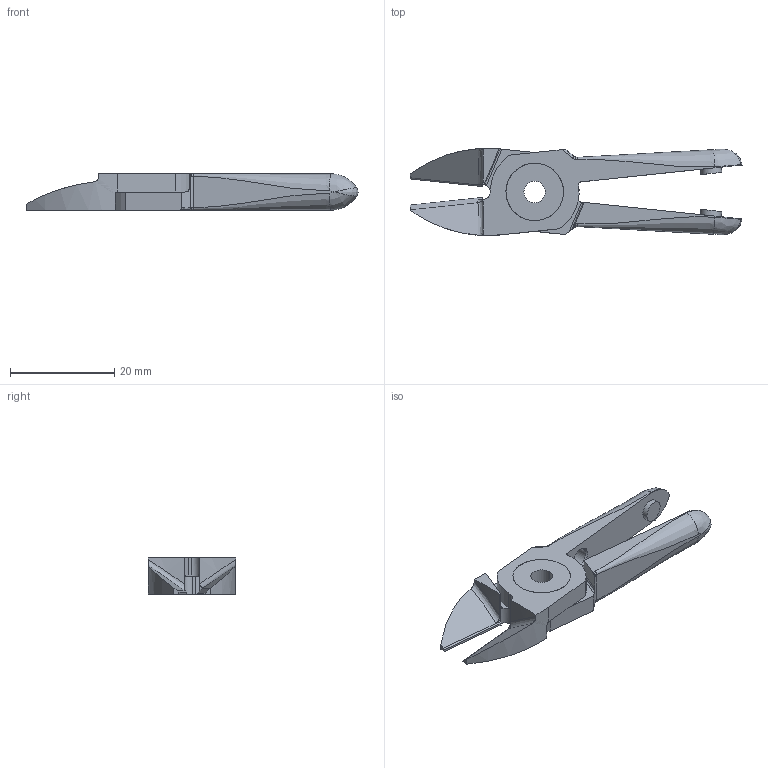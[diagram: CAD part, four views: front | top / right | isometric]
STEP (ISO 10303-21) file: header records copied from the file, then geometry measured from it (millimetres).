
FILE_DESCRIPTION (( 'STEP AP214' ), '1' );
FILE_NAME ('N3BJ.STEP', '2019-11-29T02:25:40', ( '微软用户' ), ( '微软中国' ), 'SwSTEP 2.0', 'SolidWorks 2016', '' );
FILE_SCHEMA (( 'AUTOMOTIVE_DESIGN' ));
Length unit declared in the file: millimetre
Products named in the file (4): BR2; BR1; BS; N3BJ
Assembly tree (3 placements, depth 2):
  N3BJ
    BS
    BR1
    BR2
Bounding box: 63.55 x 16.69 x 7 mm (x, y, z)
Volume: 3551.5 mm3; surface area: 3653.8 mm2
Topology: 3 solids, 3 shells, 130 faces, 336 edges, 210 vertices
Faces by surface type: bspline 69, plane 38, cylinder 19, cone 4
Entity records: 10363 total; most frequent: CARTESIAN_POINT 7665, ORIENTED_EDGE 660, DIRECTION 348, EDGE_CURVE 330, VERTEX_POINT 210, VECTOR 144, LINE 144, EDGE_LOOP 140
